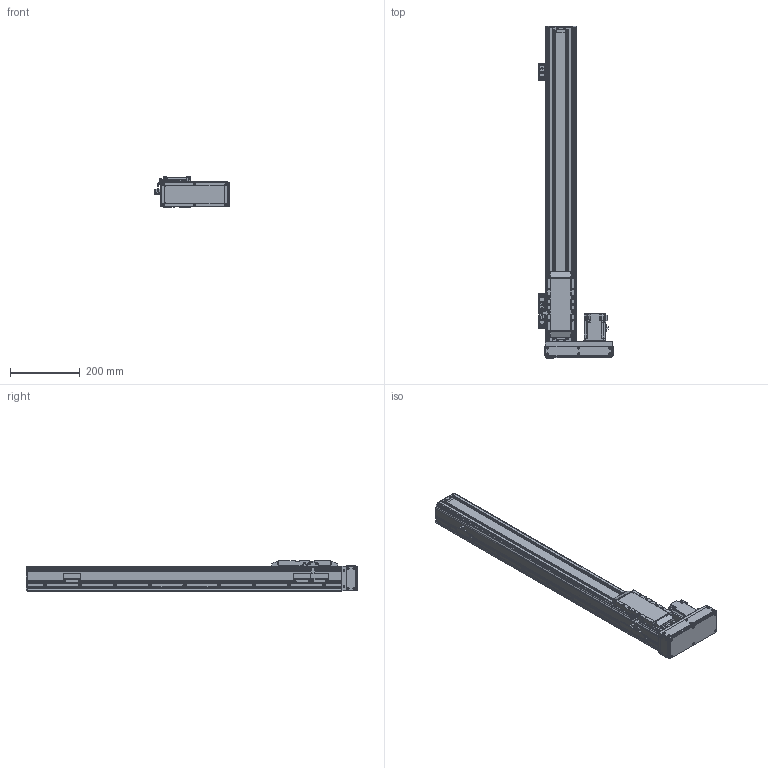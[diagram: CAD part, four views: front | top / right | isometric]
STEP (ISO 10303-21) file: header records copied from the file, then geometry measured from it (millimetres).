
FILE_DESCRIPTION(/* description */ (''),/* implementation_level */ '2;1');
FILE_NAME(/* name */ '\\192.168.0.160\disk1\HAN SHIN Master\B-설계부문\C-표준\B-2024년\BC02-표준도면\+로봇 개선표준도면\표준 승인도 폴더 - 재작업\3D\HC Type\HC90\우병렬\HC90-R20-N1B-0700-L10.stp',/* time_stamp */ '2024-03-15T15:06:38+09:00',/* author */ ('User'),/* organization */ (''),/* preprocessor_version */ 'ST-DEVELOPER v18.1',/* originating_system */ 'Autodesk Inventor 2022',/* authorisation */ '');
FILE_SCHEMA (('AUTOMOTIVE_DESIGN { 1 0 10303 214 3 1 1 }'));
Products named in the file (29): HC90-R20-N1B-0500-L10 - 간소화; HC90 S BASE 200W--; HC75-REAR BLOCK; HC75-REAR BLOCK_1; HC90 REAR COVER; HC90-UP COVER; HC90 SIDE COVER 100W G; STOPPER3; M-5UT; M-5H-4; HC75 TABLE COVER; HC65 TABLE SIDE COVER; HC75,90 SHEET PLATE; LMKE1520 NUT; HC90 TABLE - SR20W - OIL; STOPPER3_1; MOTOR PLATE - 200W; hg-kr23_; HR65-LR-BELT COVER; HC90-BELT COVER-COVER2; HR75-D-BELT COVER-COVER; HC90-BELT COVER-COVER3; 화살표; HC90 LR MOTOR PLATE_MIR; HC75 SENSOR DOG; SENSOR BRK(EE-SX674A); EE_SX674A; hsr_ftht_A-M6F_grease_nipple_joint; NIPPLE CAP(신규)
Assembly tree (39 placements, depth 2):
  HC90-R20-N1B-0500-L10 - 간소화
    HC90 S BASE 200W--
    HC90 SIDE COVER 100W G  x2
    HC75-REAR BLOCK
    HC75-REAR BLOCK_1
    HC90 REAR COVER
    HC90-UP COVER
    STOPPER3
    M-5H-4  x2
    M-5UT
    HC65 TABLE SIDE COVER  x2
    HC75 TABLE COVER
    HC75,90 SHEET PLATE  x3
    LMKE1520 NUT
    HC90 TABLE - SR20W - OIL
    STOPPER3_1
    MOTOR PLATE - 200W
    hg-kr23_
    HR65-LR-BELT COVER
    HC90-BELT COVER-COVER2
    HR75-D-BELT COVER-COVER
    HC90-BELT COVER-COVER3  x2
    화살표  x2
    HC90 LR MOTOR PLATE_MIR
    EE_SX674A  x3
    HC75 SENSOR DOG
    SENSOR BRK(EE-SX674A)  x3
    hsr_ftht_A-M6F_grease_nipple_joint
    NIPPLE CAP(신규)
Bounding box: 215 x 952 x 88 mm (x, y, z)
Volume: 2160341.3 mm3; surface area: 1087292.5 mm2
Topology: 41 solids, 41 shells, 2851 faces, 7876 edges, 5181 vertices
Faces by surface type: plane 1927, cylinder 710, cone 196, sphere 8, torus 6, bspline 4
Full cylindrical faces by diameter (mm): 1.8 x2, 2.459 x56, 2.5 x3, 3 x8, 3.242 x43, 3.4 x28, 3.5 x16, 4 x2, 4.134 x48, 4.5 x37, 4.917 x3, 5 x29, 5.5 x18, 5.6 x9, 5.8 x4, 5.9 x8, 6 x5, 6.5 x4, 6.8 x1, 7 x3, 8 x2, 9.5 x14, 10.5 x4, 14 x1, 15 x3, 17 x1, 20 x1, 22 x1, 25 x1, 28 x1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
Entity records: 80977 total; most frequent: CARTESIAN_POINT 14761, ORIENTED_EDGE 13404, DIRECTION 12878, EDGE_CURVE 6702, LINE 5202, VECTOR 5202, VERTEX_POINT 4453, AXIS2_PLACEMENT_3D 3838
